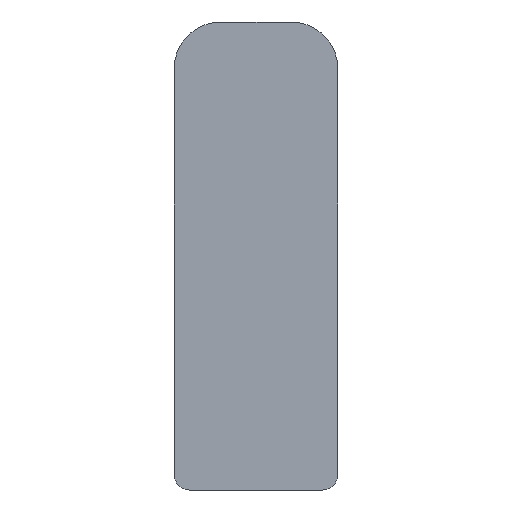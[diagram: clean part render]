
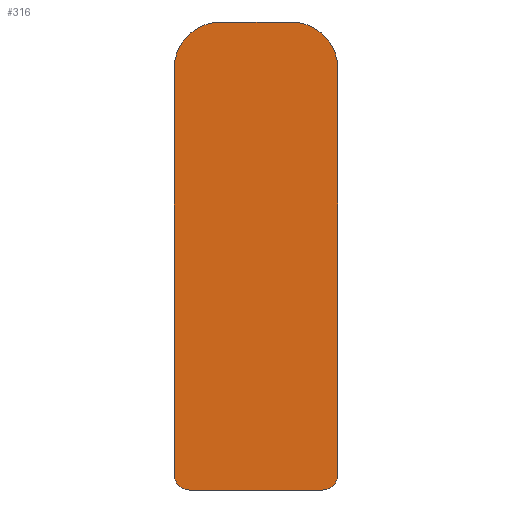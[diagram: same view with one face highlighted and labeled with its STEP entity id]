
A CAD part, left-side view. The second image highlights one B-rep face of the part: STEP entity #316.
In plain terms, the highlighted planar face has unit normal (-1, 0, 0).
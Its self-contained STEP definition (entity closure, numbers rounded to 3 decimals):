
#4 = VECTOR ( 'NONE', #298, 1000. ) ;
#5 = LINE ( 'NONE', #299, #4 ) ;
#6 = ORIENTED_EDGE ( 'NONE', *, *, #93, .T. ) ;
#11 = ORIENTED_EDGE ( 'NONE', *, *, #98, .T. ) ;
#12 = ORIENTED_EDGE ( 'NONE', *, *, #96, .T. ) ;
#19 = CIRCLE ( 'NONE', #327, 1. ) ;
#22 = LINE ( 'NONE', #314, #24 ) ;
#24 = VECTOR ( 'NONE', #312, 1000. ) ;
#31 = EDGE_LOOP ( 'NONE', ( #75, #76, #78, #79, #77, #6, #12, #11 ) ) ;
#37 = CIRCLE ( 'NONE', #328, 3. ) ;
#75 = ORIENTED_EDGE ( 'NONE', *, *, #332, .T. ) ;
#76 = ORIENTED_EDGE ( 'NONE', *, *, #336, .T. ) ;
#77 = ORIENTED_EDGE ( 'NONE', *, *, #90, .T. ) ;
#78 = ORIENTED_EDGE ( 'NONE', *, *, #85, .T. ) ;
#79 = ORIENTED_EDGE ( 'NONE', *, *, #88, .T. ) ;
#85 = EDGE_CURVE ( 'NONE', #254, #239, #37, .T. ) ;
#88 = EDGE_CURVE ( 'NONE', #239, #271, #22, .T. ) ;
#90 = EDGE_CURVE ( 'NONE', #271, #234, #19, .T. ) ;
#93 = EDGE_CURVE ( 'NONE', #234, #313, #5, .T. ) ;
#96 = EDGE_CURVE ( 'NONE', #313, #265, #341, .T. ) ;
#98 = EDGE_CURVE ( 'NONE', #265, #290, #339, .T. ) ;
#114 = VECTOR ( 'NONE', #187, 1000. ) ;
#115 = LINE ( 'NONE', #188, #114 ) ;
#121 = CIRCLE ( 'NONE', #143, 3. ) ;
#131 = FACE_OUTER_BOUND ( 'NONE', #31, .T. ) ;
#143 = AXIS2_PLACEMENT_3D ( 'NONE', #200, #199, #198 ) ;
#153 = AXIS2_PLACEMENT_3D ( 'NONE', #250, #249, #247 ) ;
#187 = DIRECTION ( 'NONE',  ( 0., 1., 0. ) ) ;
#188 = CARTESIAN_POINT ( 'NONE',  ( -256.25, -2.25, 30. ) ) ;
#198 = DIRECTION ( 'NONE',  ( 0., 0., 1. ) ) ;
#199 = DIRECTION ( 'NONE',  ( -1., 0., 0. ) ) ;
#200 = CARTESIAN_POINT ( 'NONE',  ( -256.25, -2.25, 27. ) ) ;
#201 = DIRECTION ( 'NONE',  ( 0., 0., -1. ) ) ;
#203 = DIRECTION ( 'NONE',  ( -1., 0., 0. ) ) ;
#205 = CARTESIAN_POINT ( 'NONE',  ( -256.25, 2.25, 27. ) ) ;
#231 = VERTEX_POINT ( 'NONE', #276 ) ;
#234 = VERTEX_POINT ( 'NONE', #275 ) ;
#239 = VERTEX_POINT ( 'NONE', #273 ) ;
#247 = DIRECTION ( 'NONE',  ( 0., 0., 1. ) ) ;
#249 = DIRECTION ( 'NONE',  ( -1., 0., 0. ) ) ;
#250 = CARTESIAN_POINT ( 'NONE',  ( -256.25, -2.25, 27. ) ) ;
#251 = PLANE ( 'NONE',  #153 ) ;
#254 = VERTEX_POINT ( 'NONE', #269 ) ;
#257 = CARTESIAN_POINT ( 'NONE',  ( -256.25, -4.25, 0. ) ) ;
#263 = CARTESIAN_POINT ( 'NONE',  ( -256.25, -5.25, 27. ) ) ;
#264 = CARTESIAN_POINT ( 'NONE',  ( -256.25, 5.25, 1. ) ) ;
#265 = VERTEX_POINT ( 'NONE', #266 ) ;
#266 = CARTESIAN_POINT ( 'NONE',  ( -256.25, -5.25, 1. ) ) ;
#269 = CARTESIAN_POINT ( 'NONE',  ( -256.25, 2.25, 30. ) ) ;
#271 = VERTEX_POINT ( 'NONE', #264 ) ;
#273 = CARTESIAN_POINT ( 'NONE',  ( -256.25, 5.25, 27. ) ) ;
#275 = CARTESIAN_POINT ( 'NONE',  ( -256.25, 4.25, 0. ) ) ;
#276 = CARTESIAN_POINT ( 'NONE',  ( -256.25, -2.25, 30. ) ) ;
#284 = DIRECTION ( 'NONE',  ( 0., 0., 1. ) ) ;
#285 = CARTESIAN_POINT ( 'NONE',  ( -256.25, -5.25, 1. ) ) ;
#288 = DIRECTION ( 'NONE',  ( 0., 0., -1. ) ) ;
#289 = DIRECTION ( 'NONE',  ( -1., 0., 0. ) ) ;
#290 = VERTEX_POINT ( 'NONE', #263 ) ;
#291 = CARTESIAN_POINT ( 'NONE',  ( -256.25, -4.25, 1. ) ) ;
#298 = DIRECTION ( 'NONE',  ( 0., -1., 0. ) ) ;
#299 = CARTESIAN_POINT ( 'NONE',  ( -256.25, -4.25, 0. ) ) ;
#305 = DIRECTION ( 'NONE',  ( 0., 0., -1. ) ) ;
#306 = DIRECTION ( 'NONE',  ( -1., 0., 0. ) ) ;
#307 = CARTESIAN_POINT ( 'NONE',  ( -256.25, 4.25, 1. ) ) ;
#312 = DIRECTION ( 'NONE',  ( 0., 0., -1. ) ) ;
#313 = VERTEX_POINT ( 'NONE', #257 ) ;
#314 = CARTESIAN_POINT ( 'NONE',  ( -256.25, 5.25, 1. ) ) ;
#316 = ADVANCED_FACE ( 'NONE', ( #131 ), #251, .T. ) ;
#325 = AXIS2_PLACEMENT_3D ( 'NONE', #291, #289, #288 ) ;
#327 = AXIS2_PLACEMENT_3D ( 'NONE', #307, #306, #305 ) ;
#328 = AXIS2_PLACEMENT_3D ( 'NONE', #205, #203, #201 ) ;
#332 = EDGE_CURVE ( 'NONE', #290, #231, #121, .T. ) ;
#336 = EDGE_CURVE ( 'NONE', #231, #254, #115, .T. ) ;
#338 = VECTOR ( 'NONE', #284, 1000. ) ;
#339 = LINE ( 'NONE', #285, #338 ) ;
#341 = CIRCLE ( 'NONE', #325, 1. ) ;
